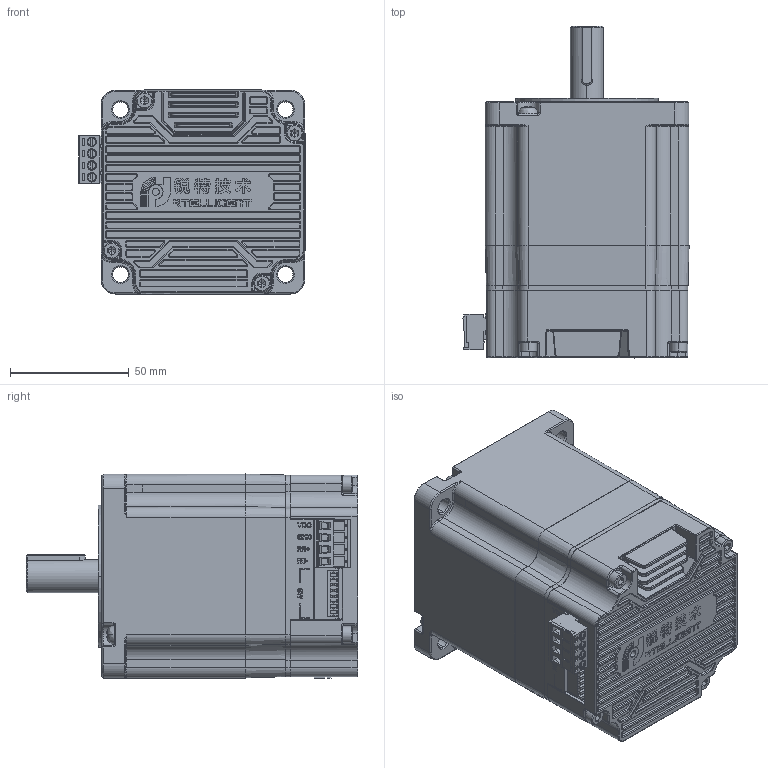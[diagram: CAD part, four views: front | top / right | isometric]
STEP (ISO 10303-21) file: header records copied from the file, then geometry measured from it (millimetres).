
FILE_DESCRIPTION((''),'2;1');
FILE_NAME('IT86AM45-K1432-24V-M','2025-02-08T11:14:24',('ruiwe'),(''),'CREO PARAMETRIC BY PTC INC, 2021063','CREO PARAMETRIC BY PTC INC, 2021063','');
FILE_SCHEMA(('CONFIG_CONTROL_DESIGN','SHAPE_APPEARANCE_LAYERS_GROUPS'));
Products named in the file (1): IT86AM45-K1432-24V-M
Bounding box: 95.43 x 140.01 x 86.1 mm (x, y, z)
Volume: 291344.7 mm3; surface area: 140657.7 mm2
Topology: 9 solids, 166 shells, 4896 faces, 14211 edges, 9598 vertices
Faces by surface type: plane 2552, cylinder 1391, torus 467, bspline 261, cone 149, sphere 74, revolution 2
Entity records: 220396 total; most frequent: CARTESIAN_POINT 48084, ORIENTED_EDGE 25998, DIRECTION 25262, EDGE_CURVE 14183, PRESENTATION_STYLE_ASSIGNMENT 12449, STYLED_ITEM 11924, CURVE_STYLE 10422, VERTEX_POINT 9674
